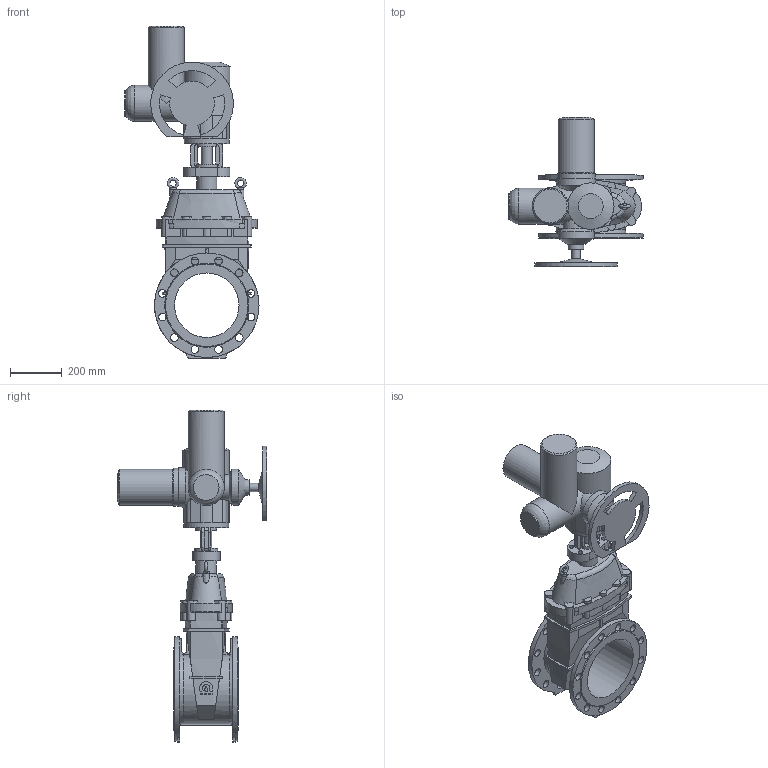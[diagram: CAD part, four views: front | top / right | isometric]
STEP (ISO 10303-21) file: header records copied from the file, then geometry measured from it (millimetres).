
FILE_DESCRIPTION(('STEP AP203'), '1');
FILE_NAME('青溻桄赅 47GV.M DN250 + MT903.A30', '', ('UNSPECIFIED'), ('UNSPECIFIED'), 'ASCON STEP Converter 1.6', 'ASCON Math Kernel', '');
FILE_SCHEMA(('CONFIG_CONTROL_DESIGN'));
Length unit declared in the file: millimetre
Bounding box: 519.5 x 578 x 1286.5 mm (x, y, z)
Volume: 43546291.2 mm3; surface area: 2023781.9 mm2
Topology: 1 solids, 1 shells, 394 faces, 1151 edges, 763 vertices
Faces by surface type: plane 188, cylinder 172, cone 21, bspline 10, torus 3
Full cylindrical faces by diameter (mm): 14 x4, 18 x8, 26 x2, 30 x26, 32 x1, 42 x1, 43 x1, 46 x1, 60 x1, 79 x1, 90 x1, 100 x2, 140 x4, 147 x1, 151 x1, 175 x1, 250 x1, 405 x2
Entity records: 38891 total; most frequent: CARTESIAN_POINT 25445, ORIENTED_EDGE 2150, DIRECTION 2089, EDGE_CURVE 1075, AXIS2_PLACEMENT_3D 818, VERTEX_POINT 761, EDGE_LOOP 540, LINE 453
